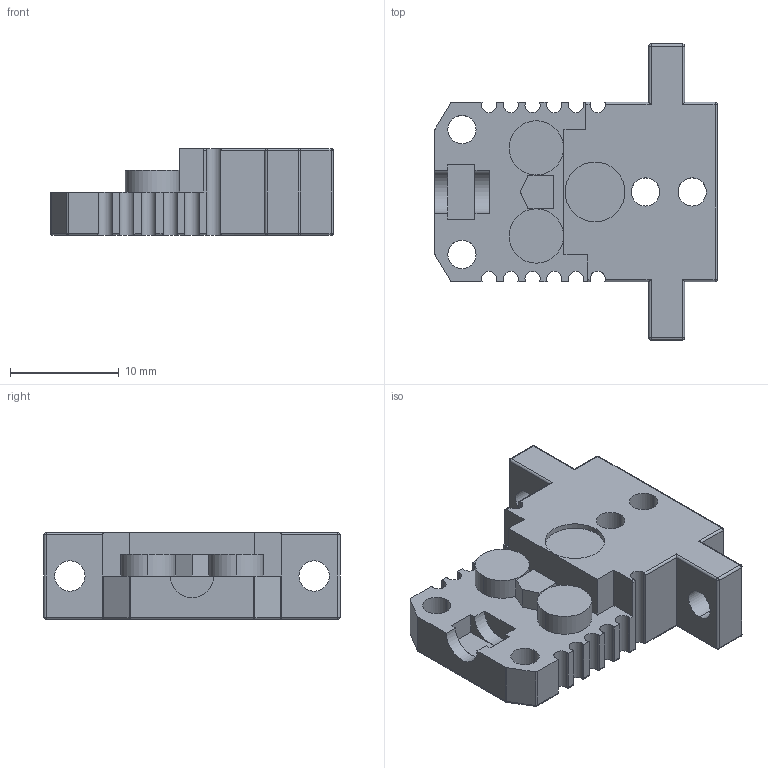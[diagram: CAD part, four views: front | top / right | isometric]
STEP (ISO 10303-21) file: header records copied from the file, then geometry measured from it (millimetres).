
FILE_DESCRIPTION (( 'STEP AP203' ), '1' );
FILE_NAME ('CMP03.STEP', '2022-06-15T06:51:37', ( '' ), ( '' ), 'SwSTEP 2.0', 'SolidWorks 2021', '' );
FILE_SCHEMA (( 'CONFIG_CONTROL_DESIGN' ));
Length unit declared in the file: millimetre
Products named in the file (1): CMP03
Bounding box: 26 x 27.26 x 8 mm (x, y, z)
Volume: 2619.7 mm3; surface area: 2197.1 mm2
Topology: 1 solids, 1 shells, 182 faces, 478 edges, 290 vertices
Faces by surface type: cylinder 105, plane 61, sphere 16
Entity records: 5657 total; most frequent: CARTESIAN_POINT 1101, DIRECTION 962, ORIENTED_EDGE 928, EDGE_CURVE 464, AXIS2_PLACEMENT_3D 351, VERTEX_POINT 290, VECTOR 260, LINE 260
